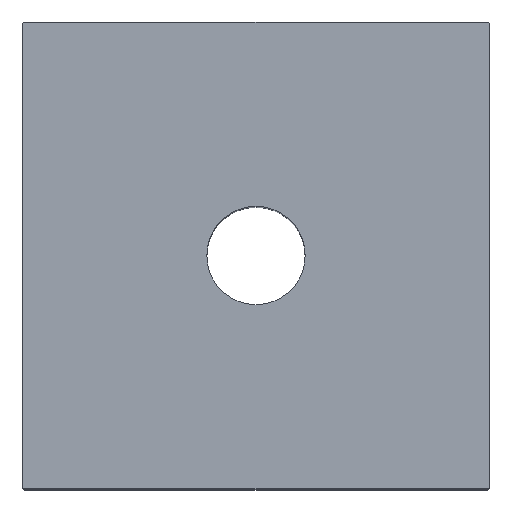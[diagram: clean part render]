
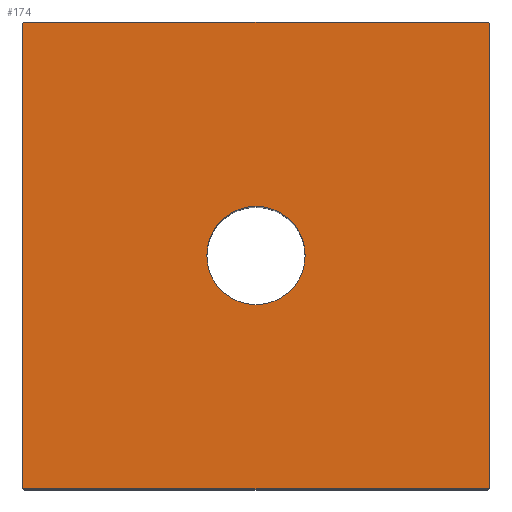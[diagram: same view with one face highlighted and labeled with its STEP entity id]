
A CAD part, top view. The second image highlights one B-rep face of the part: STEP entity #174.
In plain terms, the highlighted planar face has unit normal (0, 0, 1).
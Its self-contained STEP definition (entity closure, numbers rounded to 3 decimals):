
#174=ADVANCED_FACE('',(#213,#214),#202,.T.);
#202=PLANE('',#625);
#213=FACE_BOUND('',#217,.T.);
#214=FACE_BOUND('',#218,.T.);
#217=EDGE_LOOP('',(#323,#324,#325,#326,#327,#328,#329,#330));
#218=EDGE_LOOP('',(#331,#332));
#249=LINE('',#781,#283);
#250=LINE('',#785,#284);
#251=LINE('',#789,#285);
#252=LINE('',#793,#286);
#283=VECTOR('',#670,1.);
#284=VECTOR('',#673,1.);
#285=VECTOR('',#676,1.);
#286=VECTOR('',#679,1.);
#323=ORIENTED_EDGE('',*,*,#531,.T.);
#324=ORIENTED_EDGE('',*,*,#532,.T.);
#325=ORIENTED_EDGE('',*,*,#533,.T.);
#326=ORIENTED_EDGE('',*,*,#534,.T.);
#327=ORIENTED_EDGE('',*,*,#535,.T.);
#328=ORIENTED_EDGE('',*,*,#536,.T.);
#329=ORIENTED_EDGE('',*,*,#537,.T.);
#330=ORIENTED_EDGE('',*,*,#538,.T.);
#331=ORIENTED_EDGE('',*,*,#539,.T.);
#332=ORIENTED_EDGE('',*,*,#540,.T.);
#479=VERTEX_POINT('',#779);
#480=VERTEX_POINT('',#780);
#481=VERTEX_POINT('',#782);
#482=VERTEX_POINT('',#784);
#483=VERTEX_POINT('',#786);
#484=VERTEX_POINT('',#788);
#485=VERTEX_POINT('',#790);
#486=VERTEX_POINT('',#792);
#487=VERTEX_POINT('',#795);
#488=VERTEX_POINT('',#796);
#531=EDGE_CURVE('',#479,#480,#605,.T.);
#532=EDGE_CURVE('',#480,#481,#249,.T.);
#533=EDGE_CURVE('',#481,#482,#606,.T.);
#534=EDGE_CURVE('',#482,#483,#250,.T.);
#535=EDGE_CURVE('',#483,#484,#607,.T.);
#536=EDGE_CURVE('',#484,#485,#251,.T.);
#537=EDGE_CURVE('',#485,#486,#608,.T.);
#538=EDGE_CURVE('',#486,#479,#252,.T.);
#539=EDGE_CURVE('',#487,#488,#609,.T.);
#540=EDGE_CURVE('',#488,#487,#610,.T.);
#605=CIRCLE('',#619,0.5);
#606=CIRCLE('',#620,0.5);
#607=CIRCLE('',#621,0.5);
#608=CIRCLE('',#622,0.5);
#609=CIRCLE('',#623,10.);
#610=CIRCLE('',#624,10.);
#619=AXIS2_PLACEMENT_3D('',#778,#668,#669);
#620=AXIS2_PLACEMENT_3D('',#783,#671,#672);
#621=AXIS2_PLACEMENT_3D('',#787,#674,#675);
#622=AXIS2_PLACEMENT_3D('',#791,#677,#678);
#623=AXIS2_PLACEMENT_3D('',#794,#680,#681);
#624=AXIS2_PLACEMENT_3D('',#797,#682,#683);
#625=AXIS2_PLACEMENT_3D('',#798,#684,#685);
#668=DIRECTION('',(0.,0.,1.));
#669=DIRECTION('',(-0.707,0.707,0.));
#670=DIRECTION('',(0.,1.,0.));
#671=DIRECTION('',(0.,0.,1.));
#672=DIRECTION('',(-0.707,-0.707,0.));
#673=DIRECTION('',(-1.,0.,0.));
#674=DIRECTION('',(0.,0.,1.));
#675=DIRECTION('',(0.707,-0.707,0.));
#676=DIRECTION('',(0.,-1.,0.));
#677=DIRECTION('',(0.,0.,1.));
#678=DIRECTION('',(0.707,0.707,0.));
#679=DIRECTION('',(1.,0.,0.));
#680=DIRECTION('',(0.,0.,-1.));
#681=DIRECTION('',(-1.,0.,0.));
#682=DIRECTION('',(0.,0.,-1.));
#683=DIRECTION('',(1.,0.,0.));
#684=DIRECTION('',(0.,0.,1.));
#685=DIRECTION('',(-1.,0.,0.));
#778=CARTESIAN_POINT('',(47.,-47.,123.));
#779=CARTESIAN_POINT('',(47.,-47.5,123.));
#780=CARTESIAN_POINT('',(47.5,-47.,123.));
#781=CARTESIAN_POINT('',(47.5,-47.,123.));
#782=CARTESIAN_POINT('',(47.5,47.,123.));
#783=CARTESIAN_POINT('',(47.,47.,123.));
#784=CARTESIAN_POINT('',(47.,47.5,123.));
#785=CARTESIAN_POINT('',(-47.,47.5,123.));
#786=CARTESIAN_POINT('',(-47.,47.5,123.));
#787=CARTESIAN_POINT('',(-47.,47.,123.));
#788=CARTESIAN_POINT('',(-47.5,47.,123.));
#789=CARTESIAN_POINT('',(-47.5,-47.,123.));
#790=CARTESIAN_POINT('',(-47.5,-47.,123.));
#791=CARTESIAN_POINT('',(-47.,-47.,123.));
#792=CARTESIAN_POINT('',(-47.,-47.5,123.));
#793=CARTESIAN_POINT('',(-47.,-47.5,123.));
#794=CARTESIAN_POINT('',(0.,0.,123.));
#795=CARTESIAN_POINT('',(0.,10.,123.));
#796=CARTESIAN_POINT('',(0.,-10.,123.));
#797=CARTESIAN_POINT('',(0.,0.,123.));
#798=CARTESIAN_POINT('',(47.,-47.5,123.));
